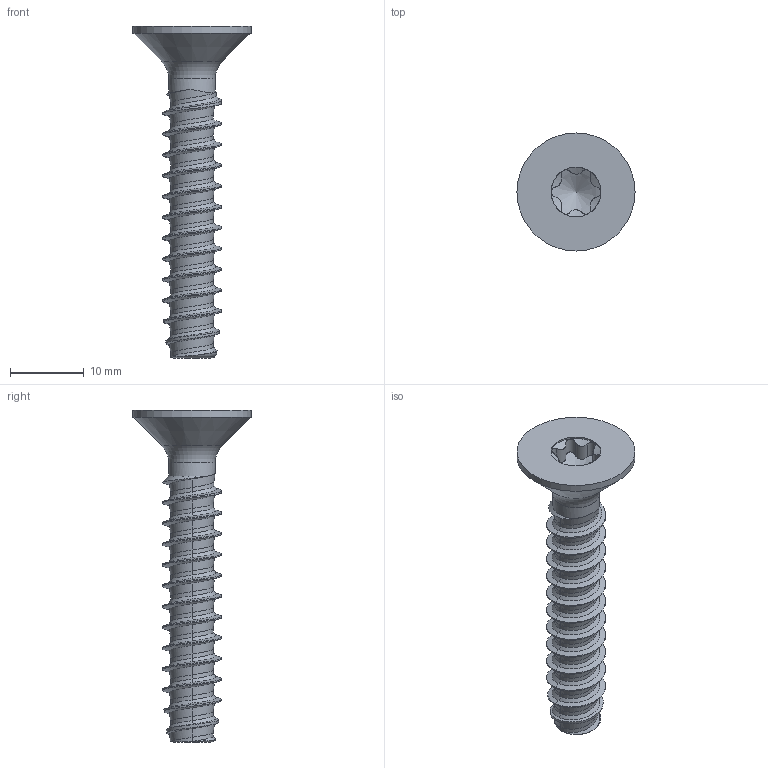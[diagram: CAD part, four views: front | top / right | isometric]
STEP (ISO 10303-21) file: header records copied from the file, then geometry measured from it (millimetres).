
FILE_DESCRIPTION(/* description */ (''),/* implementation_level */ '2;1');
FILE_NAME(/* name */ 'KN6041-STSplus-80x45-T40.step',/* time_stamp */ '2017-10-12T11:10:18+02:00',/* author */ (''),/* organization */ (''),/* preprocessor_version */ 'ST-DEVELOPER v16',/* originating_system */ 'SIEMENS PLM Software NX 10.0',/* authorisation */ '');
FILE_SCHEMA (('AUTOMOTIVE_DESIGN { 1 0 10303 214 3 1 1 1 }'));
Length unit declared in the file: millimetre
Products named in the file (1): KN6041-STSplus-80x45-T40
Bounding box: 16 x 16 x 45 mm (x, y, z)
Volume: 1818.9 mm3; surface area: 1718.1 mm2
Topology: 1 solids, 1 shells, 94 faces, 223 edges, 131 vertices
Faces by surface type: bspline 69, cylinder 16, cone 5, torus 2, plane 2
Full cylindrical faces by diameter (mm): 6.27 x1, 6.77 x1, 16 x1
Entity records: 7261 total; most frequent: CARTESIAN_POINT 5619, ORIENTED_EDGE 416, EDGE_CURVE 208, DIRECTION 150, VERTEX_POINT 125, B_SPLINE_CURVE_WITH_KNOTS 121, EDGE_LOOP 102, ADVANCED_FACE 94
